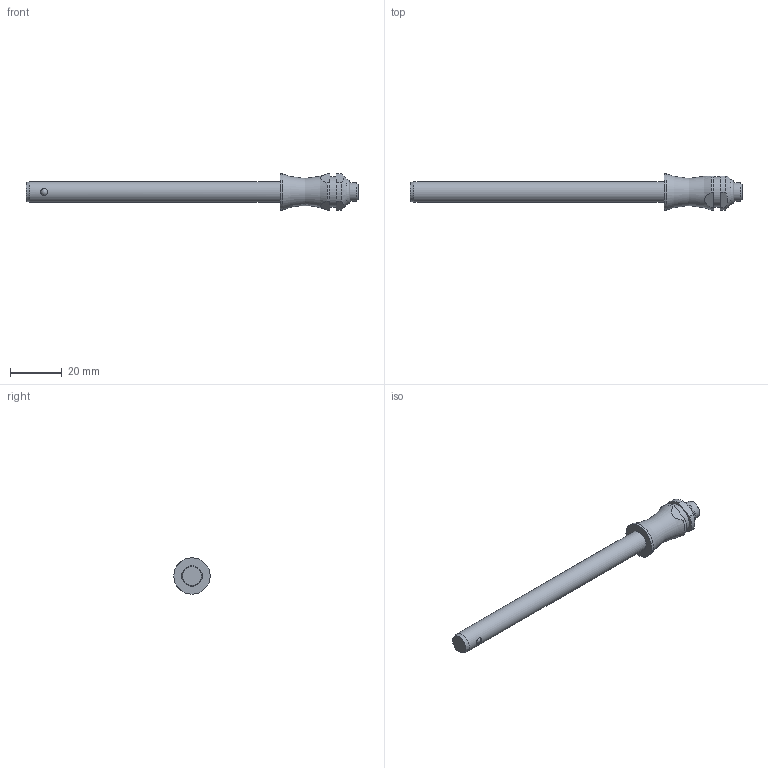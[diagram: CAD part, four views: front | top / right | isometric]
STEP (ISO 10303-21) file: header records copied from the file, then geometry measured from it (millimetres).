
FILE_DESCRIPTION( ( 'STEP AP203' ), '1' );
FILE_NAME( 'C:/Temp/Ganter_Step_05_03_2020/data/3_1/gn113_3/Stainless Steel-Ball lock pin GN 113.3-8-90 (activated).stp', '2020-03-12T08:18:29', ( 'License CC BY-ND 4.0' ), ( 'CADENAS' ), ' ', 'PARTsolutions', ' ' );
FILE_SCHEMA( ( 'CONFIG_CONTROL_DESIGN' ) );
Length unit declared in the file: millimetre
Products named in the file (1): _Stainless Steel-Ball lock pin GN 113.3-8-90 (activated)
Bounding box: 128.35 x 14 x 14 mm (x, y, z)
Volume: 8025.2 mm3; surface area: 3885.6 mm2
Topology: 1 solids, 1 shells, 30 faces, 72 edges, 45 vertices
Faces by surface type: cylinder 12, plane 11, cone 3, torus 2, sphere 2
Full cylindrical faces by diameter (mm): 2.78 x2, 7 x1, 8 x1, 11.6 x1, 14 x1
Entity records: 968 total; most frequent: CARTESIAN_POINT 321, DIRECTION 130, ORIENTED_EDGE 102, AXIS2_PLACEMENT_3D 56, EDGE_CURVE 51, EDGE_LOOP 46, VERTEX_POINT 39, FACE_OUTER_BOUND 38
